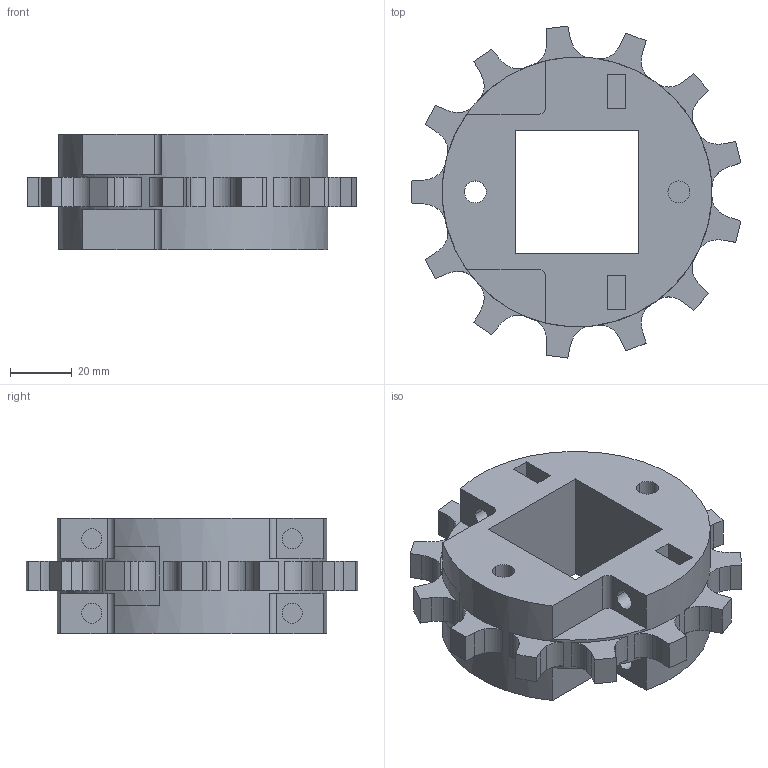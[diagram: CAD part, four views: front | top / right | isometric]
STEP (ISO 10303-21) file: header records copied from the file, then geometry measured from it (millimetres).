
FILE_DESCRIPTION((''),'2;1');
FILE_NAME('S9000_SPLIT_42_SQ','2010-11-16T',('rklein'),('INTRALOX'),'PRO/ENGINEER BY PARAMETRIC TECHNOLOGY CORPORATION, 2009460','PRO/ENGINEER BY PARAMETRIC TECHNOLOGY CORPORATION, 2009460','');
FILE_SCHEMA(('CONFIG_CONTROL_DESIGN'));
Length unit declared in the file: inch
Products named in the file (1): S9000_SPLIT_42_SQ
Bounding box: 106.93 x 107.71 x 37.59 mm (x, y, z)
Volume: 155087.5 mm3; surface area: 34025.5 mm2
Topology: 1 solids, 1 shells, 174 faces, 464 edges, 310 vertices
Faces by surface type: plane 104, cylinder 70
Entity records: 5542 total; most frequent: DIRECTION 986, CARTESIAN_POINT 948, ORIENTED_EDGE 928, EDGE_CURVE 464, AXIS2_PLACEMENT_3D 348, VERTEX_POINT 310, VECTOR 290, LINE 290
